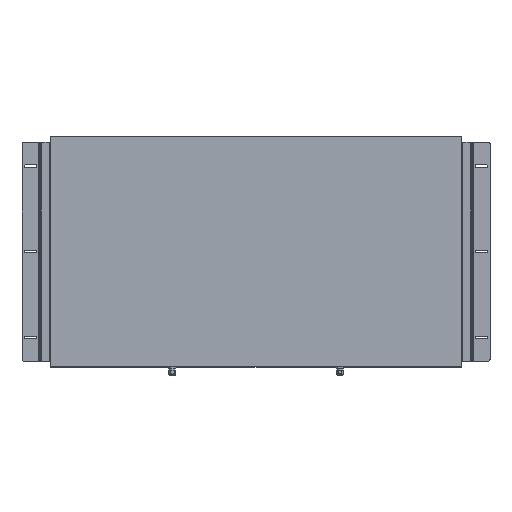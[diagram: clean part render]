
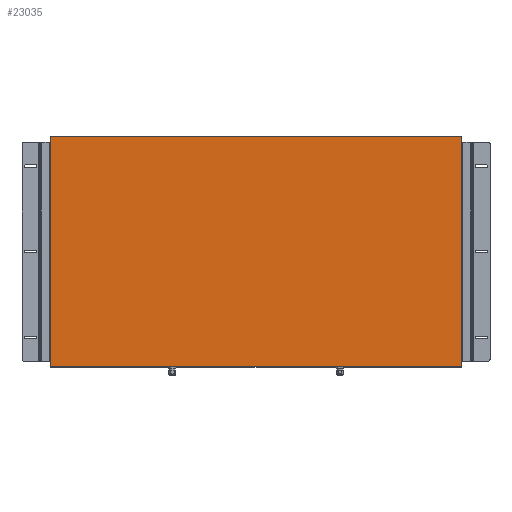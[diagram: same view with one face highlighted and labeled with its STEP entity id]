
A CAD part, top view. The second image highlights one B-rep face of the part: STEP entity #23035.
In plain terms, the highlighted planar face has unit normal (0, 0, 1).
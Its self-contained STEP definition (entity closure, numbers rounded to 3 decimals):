
#2788=LINE('',#44391,#4590);
#2789=LINE('',#44394,#4591);
#2792=LINE('',#44399,#4594);
#2793=LINE('',#44401,#4595);
#4590=VECTOR('',#31734,10.);
#4591=VECTOR('',#31737,10.);
#4594=VECTOR('',#31742,10.);
#4595=VECTOR('',#31745,10.);
#5174=PLANE('',#25356);
#6654=FACE_OUTER_BOUND('',#8131,.T.);
#8131=EDGE_LOOP('',(#20373,#20374,#20375,#20376));
#11098=VERTEX_POINT('',#44387);
#11099=VERTEX_POINT('',#44389);
#11100=VERTEX_POINT('',#44393);
#11101=VERTEX_POINT('',#44397);
#14193=EDGE_CURVE('',#11099,#11098,#2788,.T.);
#14194=EDGE_CURVE('',#11098,#11100,#2789,.T.);
#14197=EDGE_CURVE('',#11099,#11101,#2792,.T.);
#14198=EDGE_CURVE('',#11100,#11101,#2793,.T.);
#20373=ORIENTED_EDGE('',*,*,#14197,.T.);
#20374=ORIENTED_EDGE('',*,*,#14198,.F.);
#20375=ORIENTED_EDGE('',*,*,#14194,.F.);
#20376=ORIENTED_EDGE('',*,*,#14193,.F.);
#23035=ADVANCED_FACE('',(#6654),#5174,.F.);
#25356=AXIS2_PLACEMENT_3D('',#44400,#31743,#31744);
#31734=DIRECTION('',(0.,1.,0.));
#31737=DIRECTION('',(1.,0.,0.));
#31742=DIRECTION('',(1.,0.,0.));
#31743=DIRECTION('center_axis',(0.,0.,
-1.));
#31744=DIRECTION('ref_axis',(1.,0.,0.));
#31745=DIRECTION('',(0.,-1.,0.));
#44387=CARTESIAN_POINT('',(-560.33,329.983,163.158));
#44389=CARTESIAN_POINT('',(-560.33,-342.717,163.158));
#44391=CARTESIAN_POINT('',(-560.33,-342.717,163.158));
#44393=CARTESIAN_POINT('',(641.47,329.983,163.158));
#44394=CARTESIAN_POINT('',(-560.33,329.983,163.158));
#44397=CARTESIAN_POINT('',(641.47,-342.717,163.158));
#44399=CARTESIAN_POINT('',(-560.33,-342.717,163.158));
#44400=CARTESIAN_POINT('Origin',(-560.33,329.083,163.158));
#44401=CARTESIAN_POINT('',(641.47,329.983,163.158));
